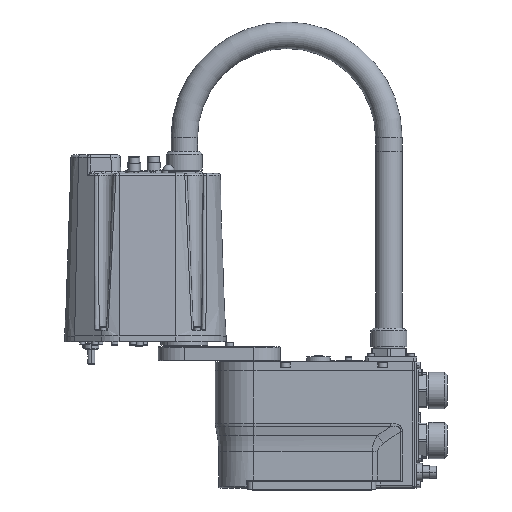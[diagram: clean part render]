
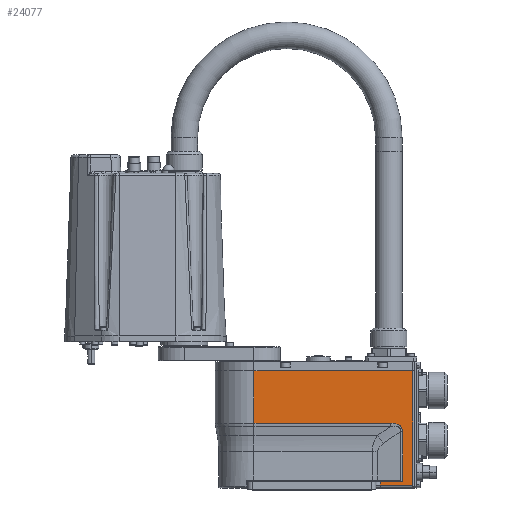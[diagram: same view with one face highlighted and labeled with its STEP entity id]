
A CAD part, top view. The second image highlights one B-rep face of the part: STEP entity #24077.
In plain terms, the highlighted planar face has unit normal (0, 0, 1).
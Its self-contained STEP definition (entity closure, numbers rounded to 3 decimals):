
#2855=DIRECTION('',(1.,0.,0.));
#2856=VECTOR('',#2855,170.5);
#2857=CARTESIAN_POINT('',(0.,128.,41.5));
#2858=LINE('',#2857,#2856);
#3242=DIRECTION('',(-1.,0.,0.));
#3243=VECTOR('',#3242,23.842);
#3244=CARTESIAN_POINT('',(159.728,9.,41.5));
#3245=LINE('',#3244,#3243);
#3246=CARTESIAN_POINT('',(159.728,62.676,41.5));
#3247=CARTESIAN_POINT('',(159.728,62.857,41.5));
#3248=CARTESIAN_POINT('',(159.721,63.206,41.5));
#3249=CARTESIAN_POINT('',(159.688,63.698,41.5));
#3250=CARTESIAN_POINT('',(159.637,64.161,41.5));
#3251=CARTESIAN_POINT('',(159.568,64.598,41.5));
#3252=CARTESIAN_POINT('',(159.484,65.011,41.5));
#3253=CARTESIAN_POINT('',(159.384,65.402,41.5));
#3254=CARTESIAN_POINT('',(159.271,65.774,41.5));
#3255=CARTESIAN_POINT('',(159.144,66.129,41.5));
#3256=CARTESIAN_POINT('',(159.003,66.468,41.5));
#3257=CARTESIAN_POINT('',(158.85,66.792,41.5));
#3258=CARTESIAN_POINT('',(158.683,67.104,41.5));
#3259=CARTESIAN_POINT('',(158.503,67.404,41.5));
#3260=CARTESIAN_POINT('',(158.31,67.693,41.5));
#3261=CARTESIAN_POINT('',(158.102,67.972,41.5));
#3262=CARTESIAN_POINT('',(157.88,68.242,41.5));
#3263=CARTESIAN_POINT('',(157.641,68.503,41.5));
#3264=CARTESIAN_POINT('',(157.386,68.757,41.5));
#3265=CARTESIAN_POINT('',(157.113,69.004,41.5));
#3266=CARTESIAN_POINT('',(156.82,69.243,41.5));
#3267=CARTESIAN_POINT('',(156.506,69.476,41.5));
#3268=CARTESIAN_POINT('',(156.169,69.702,41.5));
#3269=CARTESIAN_POINT('',(155.806,69.921,41.5));
#3270=CARTESIAN_POINT('',(155.416,70.133,41.5));
#3271=CARTESIAN_POINT('',(154.994,70.338,41.5));
#3272=CARTESIAN_POINT('',(154.538,70.535,41.5));
#3273=CARTESIAN_POINT('',(154.043,70.723,41.5));
#3274=CARTESIAN_POINT('',(153.507,70.901,41.5));
#3275=CARTESIAN_POINT('',(152.923,71.069,41.5));
#3276=CARTESIAN_POINT('',(152.286,71.224,41.5));
#3277=CARTESIAN_POINT('',(151.59,71.365,41.5));
#3278=CARTESIAN_POINT('',(150.827,71.488,41.5));
#3279=CARTESIAN_POINT('',(149.99,71.592,41.5));
#3280=CARTESIAN_POINT('',(149.068,71.672,41.5));
#3281=CARTESIAN_POINT('',(148.054,71.724,41.5));
#3282=CARTESIAN_POINT('',(147.305,71.737,41.5));
#3283=CARTESIAN_POINT('',(146.913,71.737,41.5));
#3285=DIRECTION('',(-1.,0.,0.));
#3286=VECTOR('',#3285,146.913);
#3287=CARTESIAN_POINT('',(146.913,71.737,41.5));
#3288=LINE('',#3287,#3286);
#3289=DIRECTION('',(0.,1.,0.));
#3290=VECTOR('',#3289,56.263);
#3291=CARTESIAN_POINT('',(0.,71.737,41.5));
#3292=LINE('',#3291,#3290);
#3293=DIRECTION('',(0.,-1.,0.));
#3294=VECTOR('',#3293,123.);
#3295=CARTESIAN_POINT('',(170.5,128.,41.5));
#3296=LINE('',#3295,#3294);
#3297=DIRECTION('',(1.,0.,0.));
#3298=VECTOR('',#3297,34.613);
#3299=CARTESIAN_POINT('',(135.887,5.,41.5));
#3300=LINE('',#3299,#3298);
#3301=DIRECTION('',(0.,1.,0.));
#3302=VECTOR('',#3301,4.);
#3303=CARTESIAN_POINT('',(135.887,5.,41.5));
#3304=LINE('',#3303,#3302);
#3310=CARTESIAN_POINT('',(159.728,9.,41.5));
#4194=DIRECTION('',(0.,-1.,0.));
#4195=VECTOR('',#4194,53.676);
#4196=CARTESIAN_POINT('',(159.728,62.676,41.5));
#4197=LINE('',#4196,#4195);
#16160=CARTESIAN_POINT('',(0.,128.,41.5));
#16162=VERTEX_POINT('',#16160);
#16233=CARTESIAN_POINT('',(135.887,5.,41.5));
#16234=CARTESIAN_POINT('',(170.5,5.,41.5));
#16235=VERTEX_POINT('',#16233);
#16236=VERTEX_POINT('',#16234);
#16387=CARTESIAN_POINT('',(0.,71.737,41.5));
#16388=VERTEX_POINT('',#16387);
#16391=CARTESIAN_POINT('',(146.913,71.737,41.5));
#16392=VERTEX_POINT('',#16391);
#16421=CARTESIAN_POINT('',(135.887,9.,41.5));
#16423=VERTEX_POINT('',#16421);
#16446=VERTEX_POINT('',#3310);
#16489=CARTESIAN_POINT('',(159.728,62.676,41.5));
#16490=VERTEX_POINT('',#16489);
#16708=CARTESIAN_POINT('',(170.5,128.,41.5));
#16710=VERTEX_POINT('',#16708);
#24054=CARTESIAN_POINT('',(0.,0.,41.5));
#24055=DIRECTION('',(0.,0.,1.));
#24056=DIRECTION('',(1.,0.,0.));
#24057=AXIS2_PLACEMENT_3D('',#24054,#24055,#24056);
#24058=PLANE('',#24057);
#24060=ORIENTED_EDGE('',*,*,#24059,.F.);
#24062=ORIENTED_EDGE('',*,*,#24061,.F.);
#24064=ORIENTED_EDGE('',*,*,#24063,.T.);
#24066=ORIENTED_EDGE('',*,*,#24065,.T.);
#24067=ORIENTED_EDGE('',*,*,#24042,.T.);
#24068=ORIENTED_EDGE('',*,*,#23179,.T.);
#24070=ORIENTED_EDGE('',*,*,#24069,.T.);
#24072=ORIENTED_EDGE('',*,*,#24071,.F.);
#24074=ORIENTED_EDGE('',*,*,#24073,.T.);
#24075=EDGE_LOOP('',(#24060,#24062,#24064,#24066,#24067,#24068,#24070,#24072,
#24074));
#24076=FACE_OUTER_BOUND('',#24075,.F.);
#24077=ADVANCED_FACE('',(#24076),#24058,.T.);
#3284=B_SPLINE_CURVE_WITH_KNOTS('',3,(#3246,#3247,#3248,#3249,#3250,#3251,#3252,
#3253,#3254,#3255,#3256,#3257,#3258,#3259,#3260,#3261,#3262,#3263,#3264,#3265,
#3266,#3267,#3268,#3269,#3270,#3271,#3272,#3273,#3274,#3275,#3276,#3277,#3278,
#3279,#3280,#3281,#3282,#3283),.UNSPECIFIED.,.F.,.F.,(4,1,1,1,1,1,1,1,1,1,1,1,1,
1,1,1,1,1,1,1,1,1,1,1,1,1,1,1,1,1,1,1,1,1,1,4),(0.,0.029,
0.057,0.086,0.114,0.143,
0.171,0.2,0.229,0.257,0.286,
0.314,0.343,0.371,0.4,0.429,
0.457,0.486,0.514,0.543,
0.571,0.6,0.629,0.657,0.686,
0.714,0.743,0.771,0.8,0.829,
0.857,0.886,0.914,0.943,
0.971,1.),.UNSPECIFIED.);
#23179=EDGE_CURVE('',#16162,#16710,#2858,.T.);
#24042=EDGE_CURVE('',#16388,#16162,#3292,.T.);
#24059=EDGE_CURVE('',#16446,#16423,#3245,.T.);
#24061=EDGE_CURVE('',#16490,#16446,#4197,.T.);
#24063=EDGE_CURVE('',#16490,#16392,#3284,.T.);
#24065=EDGE_CURVE('',#16392,#16388,#3288,.T.);
#24069=EDGE_CURVE('',#16710,#16236,#3296,.T.);
#24071=EDGE_CURVE('',#16235,#16236,#3300,.T.);
#24073=EDGE_CURVE('',#16235,#16423,#3304,.T.);
